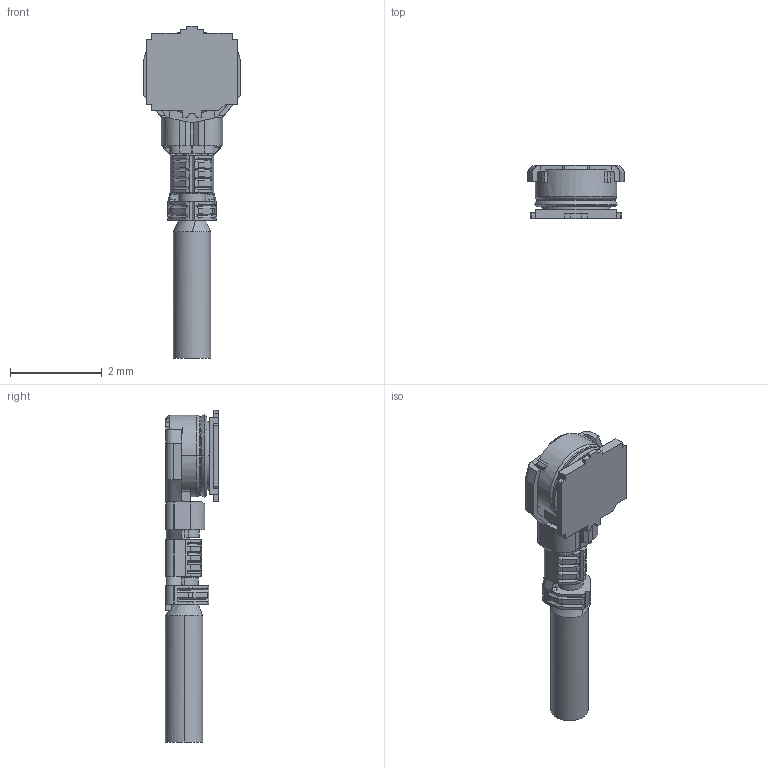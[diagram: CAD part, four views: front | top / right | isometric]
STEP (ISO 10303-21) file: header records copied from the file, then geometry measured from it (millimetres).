
FILE_DESCRIPTION (( 'STEP AP203' ), '1' );
FILE_NAME ('20449-001E+20572-001R-08C MATING STEP R5R3 ALL.STEP', '2018-04-27T08:51:01', ( '' ), ( '' ), 'SwSTEP 2.0', 'SolidWorks 2017', '' );
FILE_SCHEMA (( 'CONFIG_CONTROL_DESIGN' ));
Length unit declared in the file: millimetre
Products named in the file (1): 20449-001E+20572-001R-08C MATING STEP R5R3 ALL
Bounding box: 2.1 x 1.16 x 7.22 mm (x, y, z)
Volume: 6.3 mm3; surface area: 36.6 mm2
Topology: 1 solids, 1 shells, 337 faces, 898 edges, 570 vertices
Faces by surface type: plane 215, cylinder 67, cone 28, bspline 20, torus 7
Entity records: 12108 total; most frequent: CARTESIAN_POINT 3755, ORIENTED_EDGE 1796, DIRECTION 1617, EDGE_CURVE 898, LINE 653, VECTOR 653, VERTEX_POINT 570, AXIS2_PLACEMENT_3D 482
